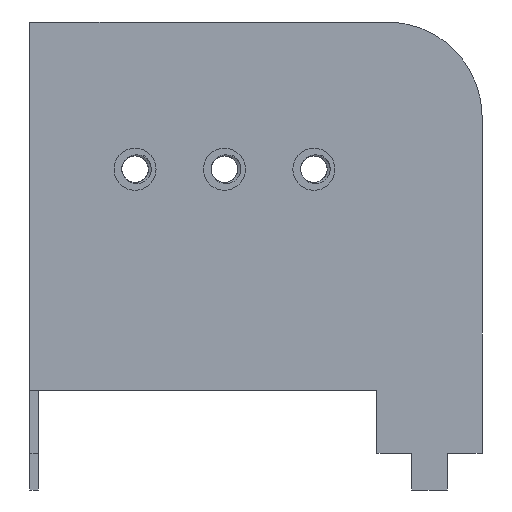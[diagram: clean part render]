
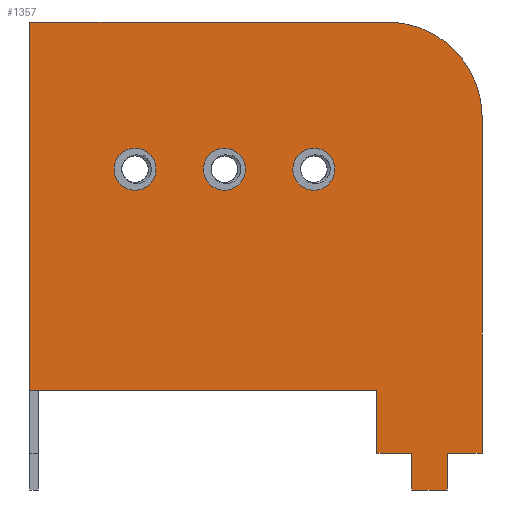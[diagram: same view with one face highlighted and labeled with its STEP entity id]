
A CAD part, front view. The second image highlights one B-rep face of the part: STEP entity #1357.
In plain terms, the highlighted planar face has unit normal (0, -1, 0).
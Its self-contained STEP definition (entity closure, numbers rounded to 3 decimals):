
#18=FACE_BOUND('',#191,.T.);
#19=FACE_BOUND('',#192,.T.);
#20=FACE_BOUND('',#193,.T.);
#40=PLANE('',#1453);
#114=FACE_OUTER_BOUND('',#190,.T.);
#190=EDGE_LOOP('',(#1159,#1160,#1161,#1162,#1163,#1164,#1165,#1166,#1167,
#1168,#1169));
#191=EDGE_LOOP('',(#1170));
#192=EDGE_LOOP('',(#1171));
#193=EDGE_LOOP('',(#1172));
#223=CIRCLE('',#1454,9.);
#224=CIRCLE('',#1455,2.);
#225=CIRCLE('',#1456,2.);
#226=CIRCLE('',#1457,2.);
#353=LINE('',#5033,#445);
#357=LINE('',#5041,#449);
#360=LINE('',#5047,#452);
#363=LINE('',#5054,#455);
#367=LINE('',#5062,#459);
#370=LINE('',#5067,#462);
#391=LINE('',#5110,#483);
#395=LINE('',#5120,#487);
#396=LINE('',#5121,#488);
#397=LINE('',#5122,#489);
#445=VECTOR('',#1623,10.);
#449=VECTOR('',#1629,10.);
#452=VECTOR('',#1634,10.);
#455=VECTOR('',#1639,10.);
#459=VECTOR('',#1645,10.);
#462=VECTOR('',#1650,10.);
#483=VECTOR('',#1685,10.);
#487=VECTOR('',#1693,10.);
#488=VECTOR('',#1694,10.);
#489=VECTOR('',#1695,10.);
#597=VERTEX_POINT('',#5031);
#598=VERTEX_POINT('',#5032);
#601=VERTEX_POINT('',#5040);
#603=VERTEX_POINT('',#5046);
#605=VERTEX_POINT('',#5052);
#606=VERTEX_POINT('',#5053);
#609=VERTEX_POINT('',#5061);
#625=VERTEX_POINT('',#5109);
#627=VERTEX_POINT('',#5116);
#628=VERTEX_POINT('',#5117);
#629=VERTEX_POINT('',#5119);
#630=VERTEX_POINT('',#5123);
#631=VERTEX_POINT('',#5125);
#632=VERTEX_POINT('',#5127);
#778=EDGE_CURVE('',#597,#598,#353,.T.);
#782=EDGE_CURVE('',#601,#597,#357,.T.);
#785=EDGE_CURVE('',#603,#601,#360,.T.);
#788=EDGE_CURVE('',#605,#606,#363,.T.);
#792=EDGE_CURVE('',#609,#605,#367,.T.);
#795=EDGE_CURVE('',#598,#609,#370,.T.);
#816=EDGE_CURVE('',#606,#625,#391,.T.);
#820=EDGE_CURVE('',#627,#628,#223,.T.);
#821=EDGE_CURVE('',#629,#627,#395,.T.);
#822=EDGE_CURVE('',#625,#629,#396,.T.);
#823=EDGE_CURVE('',#628,#603,#397,.T.);
#824=EDGE_CURVE('',#630,#630,#224,.T.);
#825=EDGE_CURVE('',#631,#631,#225,.T.);
#826=EDGE_CURVE('',#632,#632,#226,.T.);
#1159=ORIENTED_EDGE('',*,*,#820,.F.);
#1160=ORIENTED_EDGE('',*,*,#821,.F.);
#1161=ORIENTED_EDGE('',*,*,#822,.F.);
#1162=ORIENTED_EDGE('',*,*,#816,.F.);
#1163=ORIENTED_EDGE('',*,*,#788,.F.);
#1164=ORIENTED_EDGE('',*,*,#792,.F.);
#1165=ORIENTED_EDGE('',*,*,#795,.F.);
#1166=ORIENTED_EDGE('',*,*,#778,.F.);
#1167=ORIENTED_EDGE('',*,*,#782,.F.);
#1168=ORIENTED_EDGE('',*,*,#785,.F.);
#1169=ORIENTED_EDGE('',*,*,#823,.F.);
#1170=ORIENTED_EDGE('',*,*,#824,.T.);
#1171=ORIENTED_EDGE('',*,*,#825,.T.);
#1172=ORIENTED_EDGE('',*,*,#826,.T.);
#1357=ADVANCED_FACE('',(#114,#18,#19,#20),#40,.F.);
#1453=AXIS2_PLACEMENT_3D('',#5115,#1689,#1690);
#1454=AXIS2_PLACEMENT_3D('',#5118,#1691,#1692);
#1455=AXIS2_PLACEMENT_3D('',#5124,#1696,#1697);
#1456=AXIS2_PLACEMENT_3D('',#5126,#1698,#1699);
#1457=AXIS2_PLACEMENT_3D('',#5128,#1700,#1701);
#1623=DIRECTION('',(-1.,0.,0.));
#1629=DIRECTION('',(0.,0.,-1.));
#1634=DIRECTION('',(-1.,0.,0.));
#1639=DIRECTION('',(0.,0.,1.));
#1645=DIRECTION('',(-1.,0.,0.));
#1650=DIRECTION('',(0.,0.,1.));
#1685=DIRECTION('',(-1.,0.,0.));
#1689=DIRECTION('center_axis',(0.,1.,0.));
#1690=DIRECTION('ref_axis',(1.,0.,0.));
#1691=DIRECTION('center_axis',(0.,1.,0.));
#1692=DIRECTION('ref_axis',(0.,0.,1.));
#1693=DIRECTION('',(1.,0.,0.));
#1694=DIRECTION('',(0.,0.,1.));
#1695=DIRECTION('',(0.,0.,-1.));
#1696=DIRECTION('center_axis',(0.,1.,0.));
#1697=DIRECTION('ref_axis',(1.,0.,0.));
#1698=DIRECTION('center_axis',(0.,1.,0.));
#1699=DIRECTION('ref_axis',(1.,0.,0.));
#1700=DIRECTION('center_axis',(0.,1.,0.));
#1701=DIRECTION('ref_axis',(1.,0.,0.));
#5031=CARTESIAN_POINT('',(18.2,0.,-9.5));
#5032=CARTESIAN_POINT('',(14.8,0.,-9.5));
#5033=CARTESIAN_POINT('',(18.2,0.,-9.5));
#5040=CARTESIAN_POINT('',(18.2,0.,-6.));
#5041=CARTESIAN_POINT('',(18.2,0.,-6.));
#5046=CARTESIAN_POINT('',(21.5,0.,-6.));
#5047=CARTESIAN_POINT('',(21.5,0.,-6.));
#5052=CARTESIAN_POINT('',(11.5,0.,-6.));
#5053=CARTESIAN_POINT('',(11.5,0.,0.));
#5054=CARTESIAN_POINT('',(11.5,0.,-6.));
#5061=CARTESIAN_POINT('',(14.8,0.,-6.));
#5062=CARTESIAN_POINT('',(21.5,0.,-6.));
#5067=CARTESIAN_POINT('',(14.8,0.,-9.5));
#5109=CARTESIAN_POINT('',(-21.5,0.,0.));
#5110=CARTESIAN_POINT('',(21.5,0.,0.));
#5115=CARTESIAN_POINT('Origin',(0.,0.,17.5));
#5116=CARTESIAN_POINT('',(12.5,0.,35.));
#5117=CARTESIAN_POINT('',(21.5,0.,26.));
#5118=CARTESIAN_POINT('Origin',(12.5,0.,26.));
#5119=CARTESIAN_POINT('',(-21.5,0.,35.));
#5120=CARTESIAN_POINT('',(-21.5,0.,35.));
#5121=CARTESIAN_POINT('',(-21.5,0.,0.));
#5122=CARTESIAN_POINT('',(21.5,0.,26.));
#5123=CARTESIAN_POINT('',(3.5,0.,21.));
#5124=CARTESIAN_POINT('Origin',(5.5,0.,21.));
#5125=CARTESIAN_POINT('',(-5.,0.,21.));
#5126=CARTESIAN_POINT('Origin',(-3.,0.,21.));
#5127=CARTESIAN_POINT('',(-13.5,0.,21.));
#5128=CARTESIAN_POINT('Origin',(-11.5,0.,21.));
